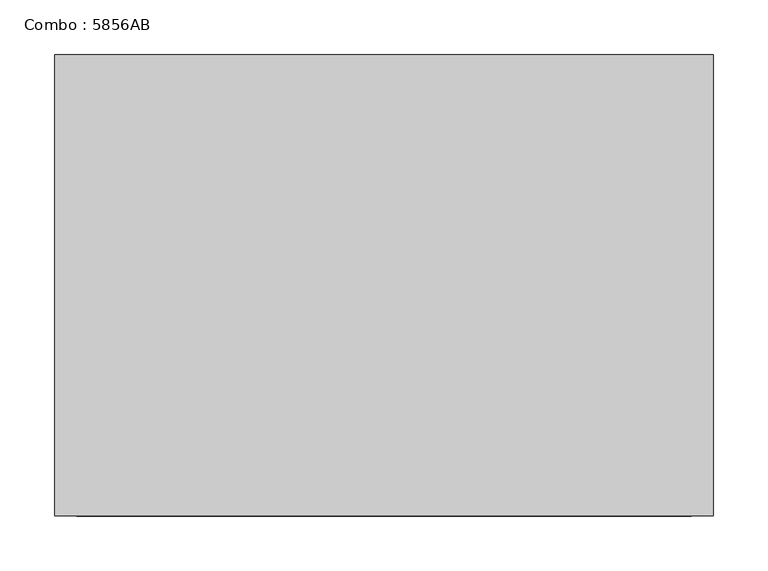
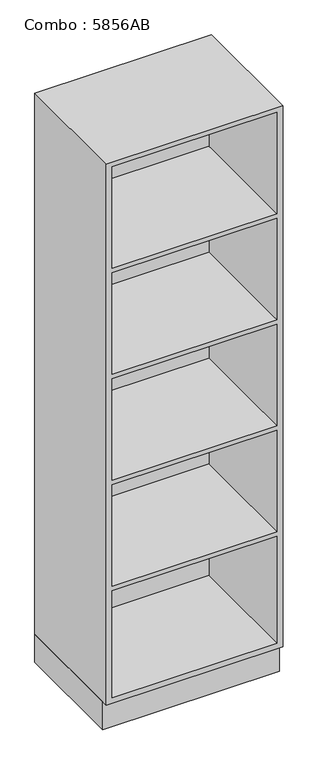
"""IFC4 building model written with IfcOpenShell, lengths in millimetres: furniture geometry, Combo : 5856AB."""

from ifc_helpers import new_model, si_unit, origin, origin_with_axes, place, context, project, spatial, polyline, outline, extrude, faceted_brep, source, transform, mapped, element, save


def combo_5856ab_b2c2fb7c(model_context):
    return source(origin(), model_context, "Body", "SolidModel", [
        extrude(outline(polyline([(-300.0, -400.0), (-300.0, 0.0), (300.0, 0.0), (300.0, -400.0), (-300.0, -400.0)])), origin_with_axes(), (0.0, 0.0, 1.0), 100.0),
        faceted_brep([(300.0, 0.0, 2040.0), (-300.0, 0.0, 2040.0), (-300.0, -420.0, 2040.0), (300.0, -420.0, 2040.0), (-300.0, 0.0, 100.0), (300.0, 0.0, 100.0), (300.0, -420.0, 100.0), (-300.0, -420.0, 100.0), (280.0, -420.0, 504.0), (280.0, -420.0, 120.0), (-280.0, -420.0, 120.0), (-280.0, -420.0, 504.0), (280.0, -420.0, 884.0), (280.0, -420.0, 520.0), (-280.0, -420.0, 520.0), (-280.0, -420.0, 884.0), (280.0, -420.0, 1264.0), (280.0, -420.0, 900.0), (-280.0, -420.0, 900.0), (-280.0, -420.0, 1264.0), (-280.0, -420.0, 1644.0), (280.0, -420.0, 1644.0), (280.0, -420.0, 1280.0), (-280.0, -420.0, 1280.0), (280.0, -420.0, 2024.0), (280.0, -420.0, 1660.0), (-280.0, -420.0, 1660.0), (-280.0, -420.0, 2024.0), (280.0, -20.0, 120.0), (280.0, -20.0, 504.0), (-280.0, -20.0, 504.0), (-280.0, -20.0, 120.0), (280.0, -20.0, 520.0), (280.0, -20.0, 884.0), (-280.0, -20.0, 884.0), (-280.0, -20.0, 520.0), (280.0, -20.0, 900.0), (280.0, -20.0, 1264.0), (-280.0, -20.0, 1264.0), (-280.0, -20.0, 900.0), (280.0, -20.0, 1280.0), (280.0, -20.0, 1644.0), (-280.0, -20.0, 1644.0), (-280.0, -20.0, 1280.0), (280.0, -20.0, 1660.0), (280.0, -20.0, 2024.0), (-280.0, -20.0, 2024.0), (-280.0, -20.0, 1660.0)], [[[0, 1, 2, 3]], [[4, 5, 6, 7]], [[1, 0, 5, 4]], [[2, 1, 4, 7]], [[3, 2, 7, 6], [8, 9, 10, 11], [12, 13, 14, 15], [16, 17, 18, 19], [20, 21, 22, 23], [24, 25, 26, 27]], [[0, 3, 6, 5]], [[28, 29, 30, 31]], [[29, 28, 9, 8]], [[30, 29, 8, 11]], [[31, 30, 11, 10]], [[28, 31, 10, 9]], [[32, 33, 34, 35]], [[33, 32, 13, 12]], [[34, 33, 12, 15]], [[35, 34, 15, 14]], [[32, 35, 14, 13]], [[36, 37, 38, 39]], [[37, 36, 17, 16]], [[38, 37, 16, 19]], [[39, 38, 19, 18]], [[36, 39, 18, 17]], [[40, 41, 42, 43]], [[42, 41, 21, 20]], [[44, 45, 46, 47]], [[41, 40, 22, 21]], [[43, 42, 20, 23]], [[45, 44, 25, 24]], [[47, 46, 27, 26]], [[40, 43, 23, 22]], [[46, 45, 24, 27]], [[44, 47, 26, 25]]]),
    ])


if __name__ == "__main__":
    model = new_model("IFC4")
    model_context = context("Model", 3, world=origin())
    ifc_project = project(units=[si_unit("LENGTHUNIT", "METRE", prefix="MILLI")], contexts=[model_context])
    site = spatial("IfcSite", under=ifc_project)
    building = spatial("IfcBuilding", under=site)
    placement = place(None, origin())
    combo_5856ab_shape = combo_5856ab_b2c2fb7c(model_context)
    element("IfcFurniture", 1, ObjectType="Combo : 5856AB", at=placement, inside=building, context=model_context, shape_type="MappedRepresentation", body=[
        mapped(combo_5856ab_shape, transform((0.0, 0.0, 0.0), x_axis=(1.0, 0.0, 0.0), y_axis=(0.0, 1.0, 0.0), z_axis=(0.0, 0.0, 1.0))),
    ])
    save(model, "model.ifc")
